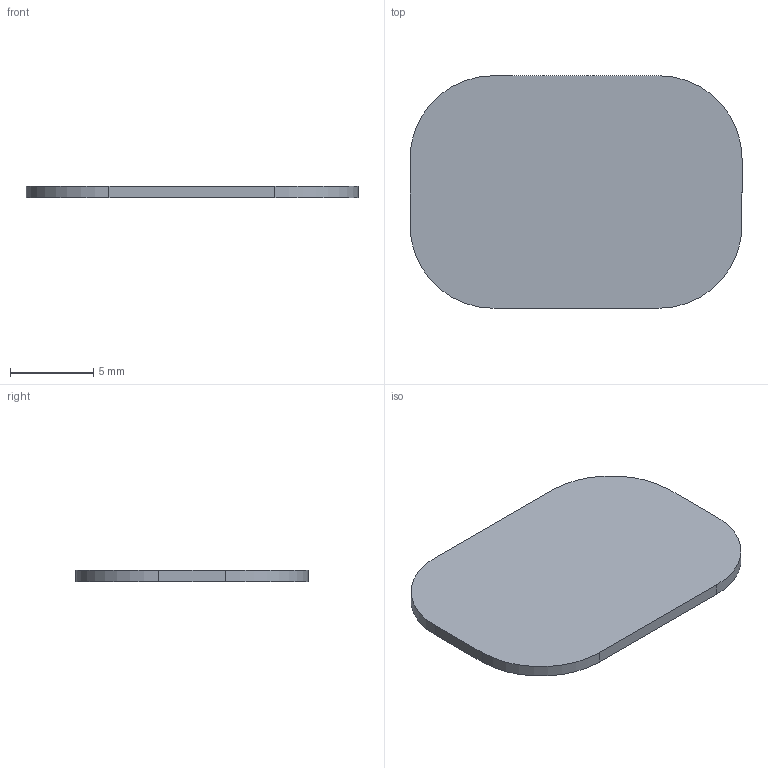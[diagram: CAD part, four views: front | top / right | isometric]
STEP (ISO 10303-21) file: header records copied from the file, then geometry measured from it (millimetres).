
FILE_DESCRIPTION (( 'STEP AP214' ), '1' );
FILE_NAME ('Klebeplatte Tipmatic.STEP', '2016-11-03T09:12:23', ( '' ), ( '' ), 'SwSTEP 2.0', 'SolidWorks 2015', '' );
FILE_SCHEMA (( 'AUTOMOTIVE_DESIGN' ));
Length unit declared in the file: millimetre
Products named in the file (1): Klebeplatte Tipmatic
Bounding box: 20 x 14 x 0.7 mm (x, y, z)
Volume: 181 mm3; surface area: 558.7 mm2
Topology: 1 solids, 1 shells, 10 faces, 24 edges, 16 vertices
Faces by surface type: plane 6, cylinder 4
Entity records: 330 total; most frequent: DIRECTION 54, CARTESIAN_POINT 51, ORIENTED_EDGE 48, EDGE_CURVE 24, AXIS2_PLACEMENT_3D 19, LINE 16, VERTEX_POINT 16, VECTOR 16
